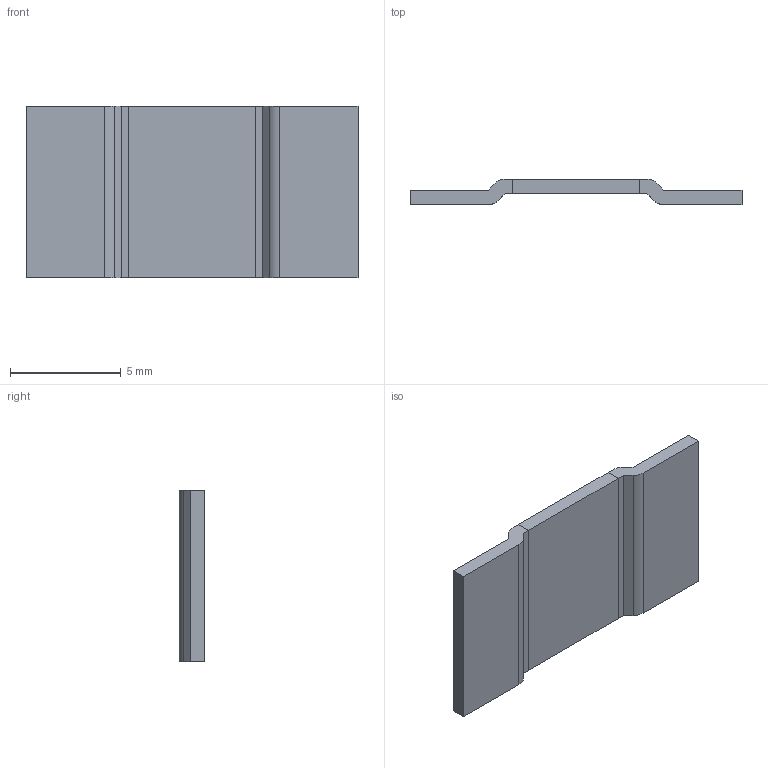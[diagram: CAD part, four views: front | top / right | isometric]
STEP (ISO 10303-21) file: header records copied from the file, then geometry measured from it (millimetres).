
FILE_DESCRIPTION (( 'STEP AP203' ), '1' );
FILE_NAME ('5930-0.5m次.STEP', '2023-11-22T07:59:07', ( 'meks@163.com' ), ( '' ), 'SwSTEP 2.0', 'SolidWorks 2020', '' );
FILE_SCHEMA (( 'CONFIG_CONTROL_DESIGN' ));
Length unit declared in the file: millimetre
Products named in the file (1): 5930-0.5m次
Bounding box: 15 x 1.15 x 7.75 mm (x, y, z)
Volume: 77.4 mm3; surface area: 288.2 mm2
Topology: 3 solids, 3 shells, 30 faces, 72 edges, 48 vertices
Faces by surface type: plane 26, cylinder 4
Entity records: 937 total; most frequent: CARTESIAN_POINT 151, ORIENTED_EDGE 144, DIRECTION 142, EDGE_CURVE 72, VECTOR 64, LINE 64, VERTEX_POINT 48, AXIS2_PLACEMENT_3D 39
